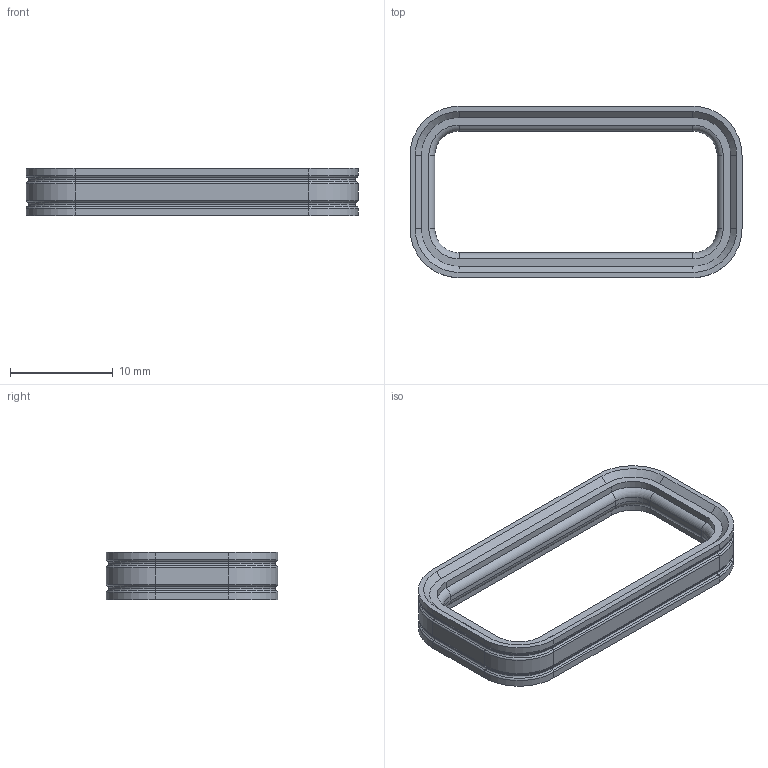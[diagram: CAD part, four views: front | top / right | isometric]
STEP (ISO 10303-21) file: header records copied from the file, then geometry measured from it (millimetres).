
FILE_DESCRIPTION((''),'2;1');
FILE_NAME('C-1010-042-1206','2013-07-31T',('workeradm'),('Tyco Electronics Ltd.'),'PRO/ENGINEER BY PARAMETRIC TECHNOLOGY CORPORATION, 2011490','PRO/ENGINEER BY PARAMETRIC TECHNOLOGY CORPORATION, 2011490','');
FILE_SCHEMA(('AUTOMOTIVE_DESIGN { 1 0 10303 214 1 1 1 1 }'));
Length unit declared in the file: millimetre
Products named in the file (1): C-1010-042-1206
Bounding box: 32.28 x 16.66 x 4.57 mm (x, y, z)
Volume: 659.6 mm3; surface area: 1095.4 mm2
Topology: 1 solids, 1 shells, 164 faces, 352 edges, 192 vertices
Faces by surface type: cylinder 72, plane 44, torus 40, cone 8
Entity records: 4684 total; most frequent: DIRECTION 856, CARTESIAN_POINT 710, ORIENTED_EDGE 704, EDGE_CURVE 352, AXIS2_PLACEMENT_3D 340, VERTEX_POINT 192, VECTOR 176, LINE 176
